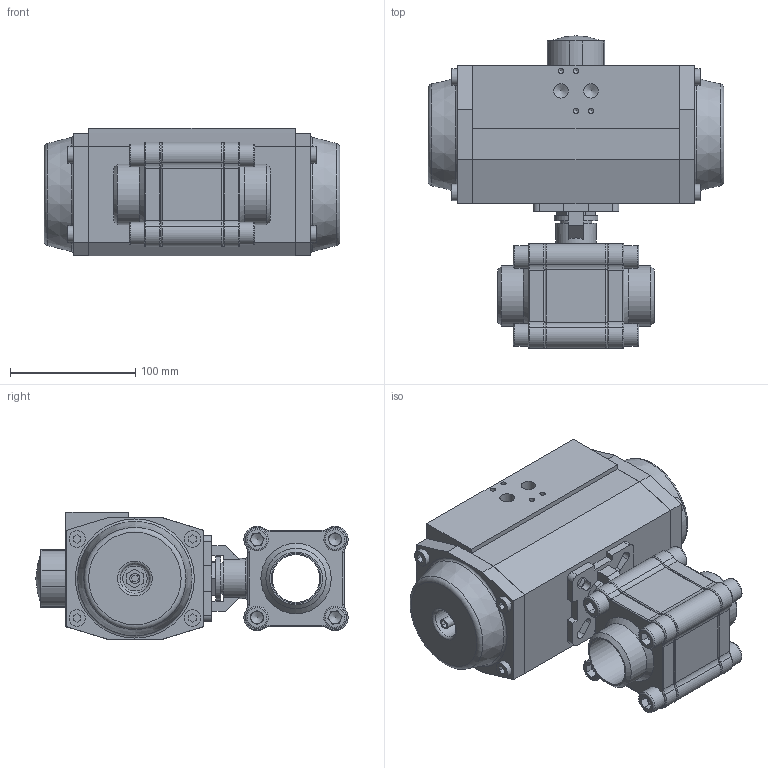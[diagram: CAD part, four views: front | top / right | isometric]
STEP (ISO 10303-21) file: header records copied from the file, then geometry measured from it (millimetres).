
FILE_DESCRIPTION (( 'STEP AP214' ), '1' );
FILE_NAME ('S33D BW DN40 + AP3.5.STEP', '2025-08-13T08:16:48', ( '' ), ( '' ), 'SwSTEP 2.0', 'SolidWorks 2021', '' );
FILE_SCHEMA (( 'AUTOMOTIVE_DESIGN' ));
Length unit declared in the file: millimetre
Products named in the file (6): socket head cap screw_din_DIN 912 M12 x 30 --- 30N; S33D Flens Buttweld DN40; S33D DN40 Buttweld; S33D BW DN40 + AP3.5; S33D KK DN40 PN100; AP3.5_Default<As Machined>
Assembly tree (13 placements, depth 3):
  S33D BW DN40 + AP3.5
    S33D DN40 Buttweld
      S33D KK DN40 PN100
      S33D Flens Buttweld DN40  x2
      socket head cap screw_din_DIN 912 M12 x 30 --- 30N  x8
    AP3.5_Default<As Machined>
Bounding box: 236 x 249.07 x 102 mm (x, y, z)
Volume: 2745004.4 mm3; surface area: 250847.3 mm2
Topology: 19 solids, 19 shells, 634 faces, 1485 edges, 930 vertices
Faces by surface type: plane 357, cylinder 143, torus 97, cone 36, sphere 1
Full cylindrical faces by diameter (mm): 4.2 x8, 6.8 x4, 8 x2, 10.5 x4, 11.445 x2, 12 x8, 12.5 x8, 13 x8, 18 x8, 23.614 x2, 25 x1, 32 x1, 35 x1, 37.5 x1, 38 x1, 38.5 x1, 39.7 x2, 45 x1, 45.8 x1, 48.1 x2, 55 x1
Entity records: 12861 total; most frequent: DIRECTION 2129, CARTESIAN_POINT 2008, ORIENTED_EDGE 1852, EDGE_CURVE 926, AXIS2_PLACEMENT_3D 760, VERTEX_POINT 631, LINE 609, VECTOR 609
